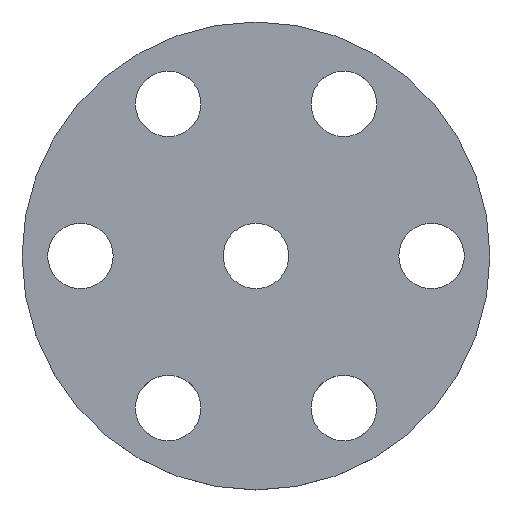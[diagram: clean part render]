
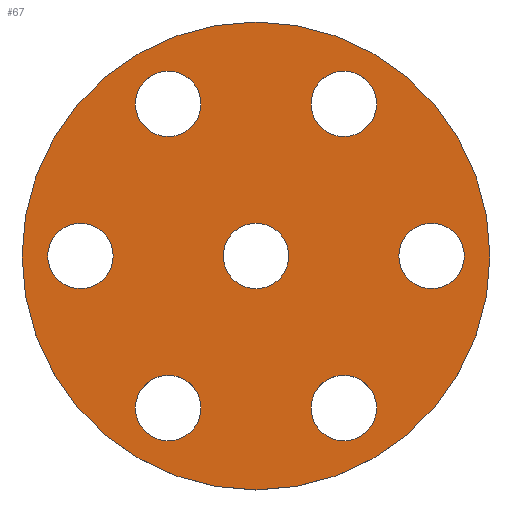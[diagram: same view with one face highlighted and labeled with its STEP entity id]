
A CAD part, top view. The second image highlights one B-rep face of the part: STEP entity #67.
In plain terms, the highlighted planar face has unit normal (0, 0, 1).
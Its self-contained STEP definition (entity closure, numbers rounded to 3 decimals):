
#67=ADVANCED_FACE('',(#169,#171,#173,#175,#177,#179,#181,#183),#185,.T.);
#169=FACE_BOUND('',#170,.T.);
#170=EDGE_LOOP('',(#270));
#171=FACE_BOUND('',#172,.T.);
#172=EDGE_LOOP('',(#271));
#173=FACE_BOUND('',#174,.T.);
#174=EDGE_LOOP('',(#272));
#175=FACE_BOUND('',#176,.T.);
#176=EDGE_LOOP('',(#273));
#177=FACE_BOUND('',#178,.T.);
#178=EDGE_LOOP('',(#274));
#179=FACE_BOUND('',#180,.T.);
#180=EDGE_LOOP('',(#275));
#181=FACE_BOUND('',#182,.T.);
#182=EDGE_LOOP('',(#276));
#183=FACE_BOUND('',#184,.T.);
#184=EDGE_LOOP('',(#277));
#185=PLANE('',#186);
#186=AXIS2_PLACEMENT_3D('',#187,#188,#189);
#187=CARTESIAN_POINT('',(0.,0.,3.));
#188=DIRECTION('',(0.,0.,1.));
#189=DIRECTION('',(1.,0.,0.));
#270=ORIENTED_EDGE('',*,*,#302,.T.);
#271=ORIENTED_EDGE('',*,*,#303,.T.);
#272=ORIENTED_EDGE('',*,*,#304,.T.);
#273=ORIENTED_EDGE('',*,*,#305,.T.);
#274=ORIENTED_EDGE('',*,*,#306,.T.);
#275=ORIENTED_EDGE('',*,*,#307,.T.);
#276=ORIENTED_EDGE('',*,*,#308,.T.);
#277=ORIENTED_EDGE('',*,*,#309,.T.);
#302=EDGE_CURVE('',#326,#326,#327,.T.);
#303=EDGE_CURVE('',#328,#328,#329,.F.);
#304=EDGE_CURVE('',#330,#330,#331,.F.);
#305=EDGE_CURVE('',#332,#332,#333,.F.);
#306=EDGE_CURVE('',#334,#334,#335,.F.);
#307=EDGE_CURVE('',#336,#336,#337,.F.);
#308=EDGE_CURVE('',#338,#338,#339,.F.);
#309=EDGE_CURVE('',#340,#340,#341,.F.);
#326=VERTEX_POINT('',#382);
#327=CIRCLE('',#383,25.);
#328=VERTEX_POINT('',#387);
#329=CIRCLE('',#388,3.5);
#330=VERTEX_POINT('',#392);
#331=CIRCLE('',#393,3.5);
#332=VERTEX_POINT('',#397);
#333=CIRCLE('',#398,3.5);
#334=VERTEX_POINT('',#402);
#335=CIRCLE('',#403,3.5);
#336=VERTEX_POINT('',#407);
#337=CIRCLE('',#408,3.5);
#338=VERTEX_POINT('',#412);
#339=CIRCLE('',#413,3.5);
#340=VERTEX_POINT('',#417);
#341=CIRCLE('',#418,3.5);
#382=CARTESIAN_POINT('',(25.,0.,3.));
#383=AXIS2_PLACEMENT_3D('',#384,#385,#386);
#384=CARTESIAN_POINT('',(0.,0.,3.));
#385=DIRECTION('',(0.,0.,1.));
#386=DIRECTION('',(1.,0.,0.));
#387=CARTESIAN_POINT('',(3.5,0.,3.));
#388=AXIS2_PLACEMENT_3D('',#389,#390,#391);
#389=CARTESIAN_POINT('',(0.,0.,3.));
#390=DIRECTION('',(0.,0.,1.));
#391=DIRECTION('',(1.,0.,0.));
#392=CARTESIAN_POINT('',(15.264,0.,3.));
#393=AXIS2_PLACEMENT_3D('',#394,#395,#396);
#394=CARTESIAN_POINT('',(18.764,0.,3.));
#395=DIRECTION('',(0.,0.,1.));
#396=DIRECTION('',(-1.,0.,0.));
#397=CARTESIAN_POINT('',(7.632,-13.219,3.));
#398=AXIS2_PLACEMENT_3D('',#399,#400,#401);
#399=CARTESIAN_POINT('',(9.382,-16.25,3.));
#400=DIRECTION('',(0.,0.,1.));
#401=DIRECTION('',(-0.5,0.866,0.));
#402=CARTESIAN_POINT('',(-7.632,13.219,3.));
#403=AXIS2_PLACEMENT_3D('',#404,#405,#406);
#404=CARTESIAN_POINT('',(-9.382,16.25,3.));
#405=DIRECTION('',(0.,0.,1.));
#406=DIRECTION('',(0.5,-0.866,0.));
#407=CARTESIAN_POINT('',(-7.632,-13.219,3.));
#408=AXIS2_PLACEMENT_3D('',#409,#410,#411);
#409=CARTESIAN_POINT('',(-9.382,-16.25,3.));
#410=DIRECTION('',(0.,0.,1.));
#411=DIRECTION('',(0.5,0.866,0.));
#412=CARTESIAN_POINT('',(7.632,13.219,3.));
#413=AXIS2_PLACEMENT_3D('',#414,#415,#416);
#414=CARTESIAN_POINT('',(9.382,16.25,3.));
#415=DIRECTION('',(0.,0.,1.));
#416=DIRECTION('',(-0.5,-0.866,-0.));
#417=CARTESIAN_POINT('',(-15.264,0.,3.));
#418=AXIS2_PLACEMENT_3D('',#419,#420,#421);
#419=CARTESIAN_POINT('',(-18.764,0.,3.));
#420=DIRECTION('',(0.,0.,1.));
#421=DIRECTION('',(1.,0.,0.));
